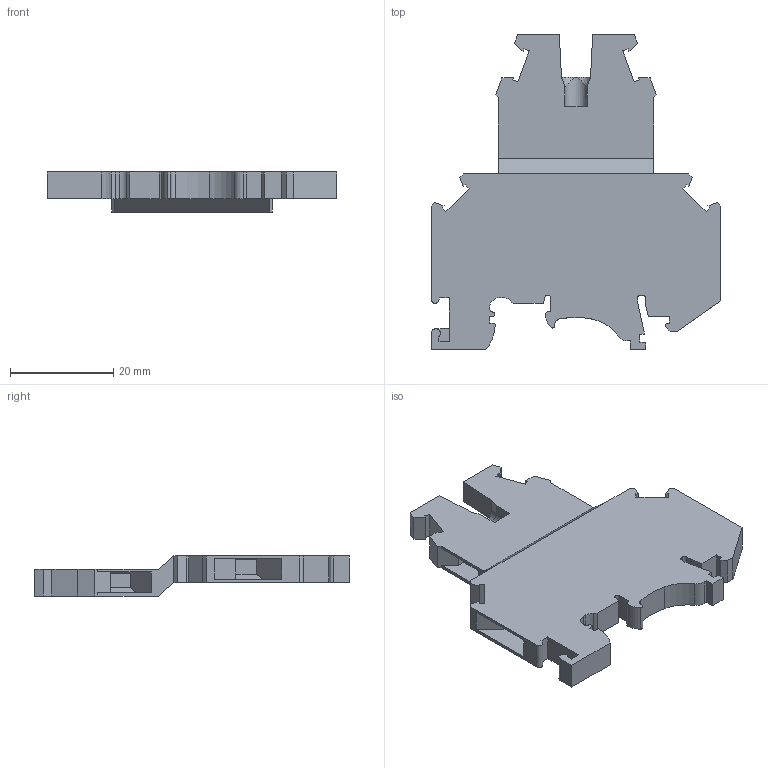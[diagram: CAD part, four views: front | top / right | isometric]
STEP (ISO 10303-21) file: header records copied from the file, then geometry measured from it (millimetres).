
FILE_DESCRIPTION( ('This file contains a STEP AP42 implementation' ,'as created by ZW3D STEP Interface translator.') ,'2;1' );
FILE_NAME( 'RUKK3-PV傷赽.stp' ,'24 726.15 828', (''), ('ZWCAD Software Co.'), 'Version 1.0', 'ZW3D to STEP translator', '' );
FILE_SCHEMA(('AUTOMOTIVE_DESIGN { 1 0 10303 214 1 1 1 1 }'));
Length unit declared in the file: millimetre
Products named in the file (2): 0; RUKK3与RUKK3-PV端子-模型
Bounding box: 56 x 60.9 x 7.75 mm (x, y, z)
Volume: 10039.8 mm3; surface area: 7164 mm2
Topology: 1 solids, 1 shells, 202 faces, 565 edges, 371 vertices
Faces by surface type: plane 172, cylinder 27, cone 2, bspline 1
Entity records: 6999 total; most frequent: CARTESIAN_POINT 1510, ORIENTED_EDGE 1130, DIRECTION 1035, EDGE_CURVE 565, VECTOR 487, LINE 487, VERTEX_POINT 371, AXIS2_PLACEMENT_3D 274
